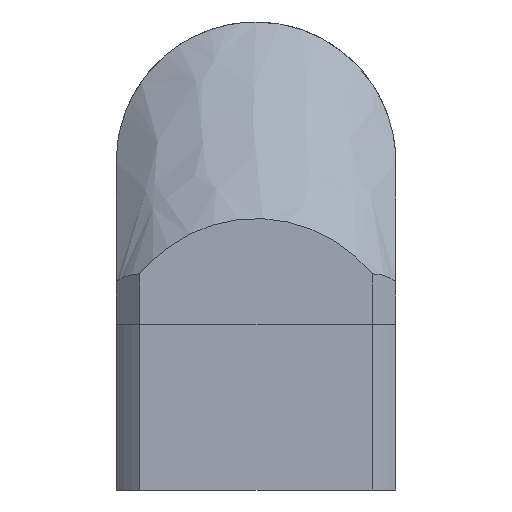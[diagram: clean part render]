
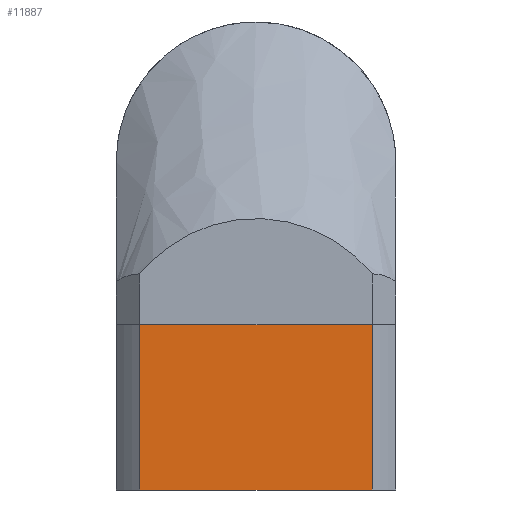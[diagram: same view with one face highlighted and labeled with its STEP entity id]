
A CAD part, front view. The second image highlights one B-rep face of the part: STEP entity #11887.
In plain terms, the highlighted planar face has unit normal (0, -1, 0).
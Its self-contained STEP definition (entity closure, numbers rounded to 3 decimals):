
#2357 = DIRECTION ( 'NONE',  ( 0., 0., -1. ) ) ;
#3847 = ORIENTED_EDGE ( 'NONE', *, *, #16481, .T. ) ;
#4150 = VERTEX_POINT ( 'NONE', #12811 ) ;
#4228 = LINE ( 'NONE', #29414, #13279 ) ;
#4251 = CARTESIAN_POINT ( 'NONE',  ( 24.92, -30., -35.5 ) ) ;
#4727 = LINE ( 'NONE', #9136, #12731 ) ;
#5965 = CARTESIAN_POINT ( 'NONE',  ( -24.92, -30., -35.5 ) ) ;
#7638 = EDGE_CURVE ( 'NONE', #42114, #4150, #29332, .T. ) ;
#8963 = DIRECTION ( 'NONE',  ( 1., 0., 0. ) ) ;
#9136 = CARTESIAN_POINT ( 'NONE',  ( 0., -30., -35.5 ) ) ;
#11887 = ADVANCED_FACE ( 'NONE', ( #12245 ), #16028, .T. ) ;
#12062 = VERTEX_POINT ( 'NONE', #5965 ) ;
#12245 = FACE_OUTER_BOUND ( 'NONE', #16127, .T. ) ;
#12731 = VECTOR ( 'NONE', #8963, 1000. ) ;
#12811 = CARTESIAN_POINT ( 'NONE',  ( -24.92, -30., 0. ) ) ;
#12817 = EDGE_CURVE ( 'NONE', #12062, #19266, #4727, .T. ) ;
#13279 = VECTOR ( 'NONE', #2357, 1000. ) ;
#13678 = ORIENTED_EDGE ( 'NONE', *, *, #12817, .T. ) ;
#14418 = DIRECTION ( 'NONE',  ( 0., 0., -1. ) ) ;
#14543 = DIRECTION ( 'NONE',  ( 0., -1., 0. ) ) ;
#14687 = CARTESIAN_POINT ( 'NONE',  ( -30., -30., -35.5 ) ) ;
#15743 = CARTESIAN_POINT ( 'NONE',  ( 24.92, -30., 0. ) ) ;
#16028 = PLANE ( 'NONE',  #28206 ) ;
#16127 = EDGE_LOOP ( 'NONE', ( #3847, #13678, #31578, #33884 ) ) ;
#16481 = EDGE_CURVE ( 'NONE', #4150, #12062, #4228, .T. ) ;
#19266 = VERTEX_POINT ( 'NONE', #33510 ) ;
#19292 = VECTOR ( 'NONE', #35361, 1000. ) ;
#21105 = DIRECTION ( 'NONE',  ( 0., 0., 1. ) ) ;
#28206 = AXIS2_PLACEMENT_3D ( 'NONE', #14687, #14543, #14418 ) ;
#29332 = LINE ( 'NONE', #35279, #19292 ) ;
#29414 = CARTESIAN_POINT ( 'NONE',  ( -24.92, -30., -35.5 ) ) ;
#31578 = ORIENTED_EDGE ( 'NONE', *, *, #33392, .T. ) ;
#33392 = EDGE_CURVE ( 'NONE', #19266, #42114, #39960, .T. ) ;
#33510 = CARTESIAN_POINT ( 'NONE',  ( 24.92, -30., -35.5 ) ) ;
#33884 = ORIENTED_EDGE ( 'NONE', *, *, #7638, .T. ) ;
#35279 = CARTESIAN_POINT ( 'NONE',  ( 0., -30., 0. ) ) ;
#35361 = DIRECTION ( 'NONE',  ( -1., 0., 0. ) ) ;
#38919 = VECTOR ( 'NONE', #21105, 1000. ) ;
#39960 = LINE ( 'NONE', #4251, #38919 ) ;
#42114 = VERTEX_POINT ( 'NONE', #15743 ) ;
